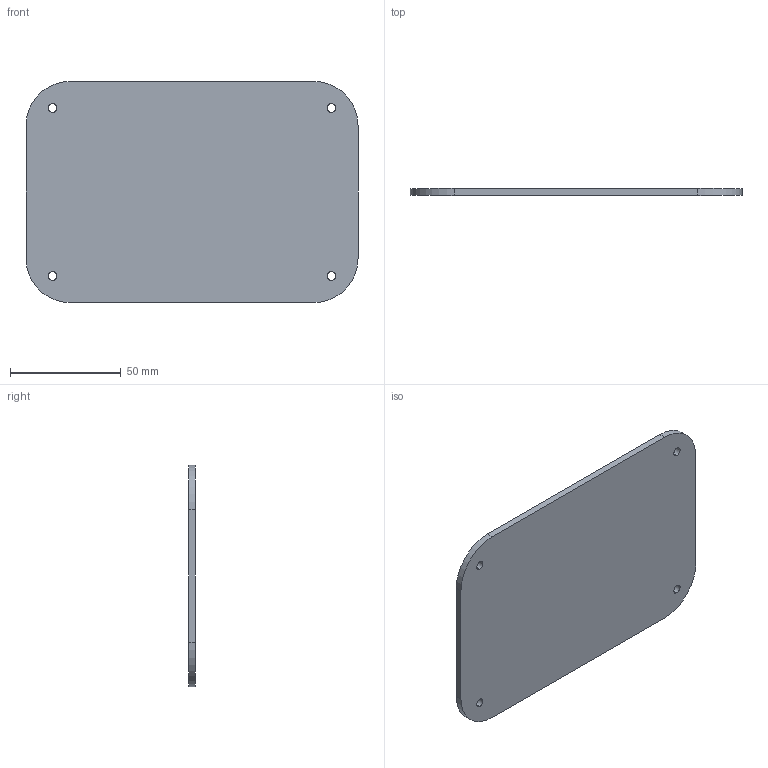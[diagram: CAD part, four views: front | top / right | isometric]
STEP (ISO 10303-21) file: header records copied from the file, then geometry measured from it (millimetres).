
FILE_DESCRIPTION (( 'STEP AP214' ), '1' );
FILE_NAME ('Acrilic lid.STEP', '2024-10-18T12:06:03', ( '' ), ( '' ), 'SwSTEP 2.0', 'SolidWorks 2020', '' );
FILE_SCHEMA (( 'AUTOMOTIVE_DESIGN' ));
Length unit declared in the file: millimetre
Products named in the file (1): Acrilic lid
Bounding box: 150 x 3 x 100 mm (x, y, z)
Volume: 43819.1 mm3; surface area: 30760.5 mm2
Topology: 1 solids, 1 shells, 18 faces, 48 edges, 32 vertices
Faces by surface type: cylinder 12, plane 6
Entity records: 626 total; most frequent: DIRECTION 110, CARTESIAN_POINT 99, ORIENTED_EDGE 96, EDGE_CURVE 48, AXIS2_PLACEMENT_3D 43, VERTEX_POINT 32, EDGE_LOOP 26, LINE 24
